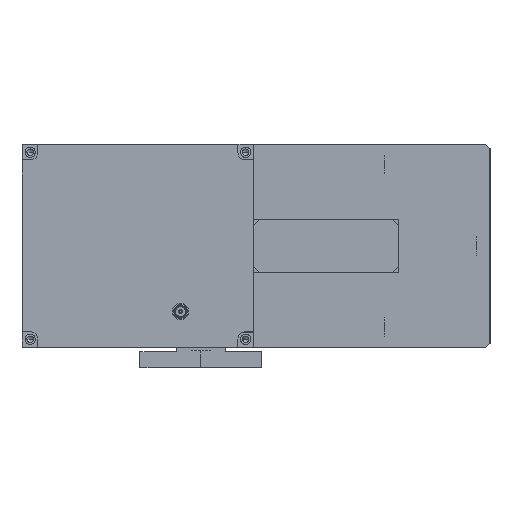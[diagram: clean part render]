
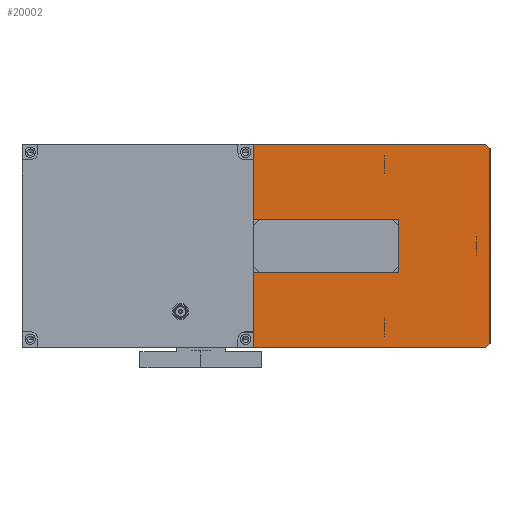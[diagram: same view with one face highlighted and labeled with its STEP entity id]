
A CAD part, left-side view. The second image highlights one B-rep face of the part: STEP entity #20002.
In plain terms, the highlighted planar face has unit normal (-1, 0, 0).
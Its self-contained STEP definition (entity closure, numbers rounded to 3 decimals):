
#368 = LINE ( 'NONE', #10370, #4258 ) ;
#388 = LINE ( 'NONE', #9389, #4557 ) ;
#816 = EDGE_CURVE ( 'NONE', #4428, #16407, #16830, .T. ) ;
#843 = VERTEX_POINT ( 'NONE', #12831 ) ;
#888 = ORIENTED_EDGE ( 'NONE', *, *, #2037, .T. ) ;
#1217 = LINE ( 'NONE', #4010, #17584 ) ;
#1444 = ORIENTED_EDGE ( 'NONE', *, *, #11602, .F. ) ;
#1617 = DIRECTION ( 'NONE',  ( 0., 0., 1. ) ) ;
#1998 = ORIENTED_EDGE ( 'NONE', *, *, #3875, .T. ) ;
#2037 = EDGE_CURVE ( 'NONE', #6688, #20751, #15978, .T. ) ;
#2354 = CARTESIAN_POINT ( 'NONE',  ( -55.786, 328.013, 241.232 ) ) ;
#3157 = LINE ( 'NONE', #13096, #12503 ) ;
#3318 = VECTOR ( 'NONE', #4772, 1000. ) ;
#3642 = VERTEX_POINT ( 'NONE', #19556 ) ;
#3875 = EDGE_CURVE ( 'NONE', #4428, #5678, #19713, .T. ) ;
#4010 = CARTESIAN_POINT ( 'NONE',  ( -55.786, 269.913, 272.782 ) ) ;
#4258 = VECTOR ( 'NONE', #8718, 1000. ) ;
#4428 = VERTEX_POINT ( 'NONE', #15458 ) ;
#4557 = VECTOR ( 'NONE', #11034, 1000. ) ;
#4772 = DIRECTION ( 'NONE',  ( 0., 0., 1. ) ) ;
#5013 = ORIENTED_EDGE ( 'NONE', *, *, #816, .F. ) ;
#5436 = VECTOR ( 'NONE', #17583, 1000. ) ;
#5678 = VERTEX_POINT ( 'NONE', #2354 ) ;
#5796 = EDGE_CURVE ( 'NONE', #6869, #3642, #388, .T. ) ;
#6502 = CARTESIAN_POINT ( 'NONE',  ( -55.786, 292.513, 241.232 ) ) ;
#6688 = VERTEX_POINT ( 'NONE', #15839 ) ;
#6869 = VERTEX_POINT ( 'NONE', #19988 ) ;
#6968 = EDGE_CURVE ( 'NONE', #6869, #843, #368, .T. ) ;
#7155 = VECTOR ( 'NONE', #15570, 1000. ) ;
#7870 = ORIENTED_EDGE ( 'NONE', *, *, #6968, .T. ) ;
#8244 = ORIENTED_EDGE ( 'NONE', *, *, #13562, .T. ) ;
#8341 = AXIS2_PLACEMENT_3D ( 'NONE', #10298, #11974, #16851 ) ;
#8346 = EDGE_CURVE ( 'NONE', #843, #6688, #3157, .T. ) ;
#8647 = PLANE ( 'NONE',  #8341 ) ;
#8718 = DIRECTION ( 'NONE',  ( 0., -0.707, 0.707 ) ) ;
#8720 = EDGE_LOOP ( 'NONE', ( #9466, #7870, #18280, #888, #8244, #1444, #20358, #5013, #1998, #21359 ) ) ;
#9139 = CARTESIAN_POINT ( 'NONE',  ( -55.786, 328.013, 254.332 ) ) ;
#9244 = CARTESIAN_POINT ( 'NONE',  ( -55.786, 328.013, 272.782 ) ) ;
#9389 = CARTESIAN_POINT ( 'NONE',  ( -55.786, 269.913, 222.782 ) ) ;
#9466 = ORIENTED_EDGE ( 'NONE', *, *, #5796, .F. ) ;
#10298 = CARTESIAN_POINT ( 'NONE',  ( -55.786, 269.913, 272.782 ) ) ;
#10370 = CARTESIAN_POINT ( 'NONE',  ( -55.786, 245.413, 248.282 ) ) ;
#11034 = DIRECTION ( 'NONE',  ( 0., 1., 0. ) ) ;
#11350 = EDGE_CURVE ( 'NONE', #3642, #5678, #16604, .T. ) ;
#11602 = EDGE_CURVE ( 'NONE', #21532, #14652, #15045, .T. ) ;
#11629 = VECTOR ( 'NONE', #17772, 1000. ) ;
#11926 = VECTOR ( 'NONE', #19197, 1000. ) ;
#11974 = DIRECTION ( 'NONE',  ( -1., 0., 0. ) ) ;
#12169 = VECTOR ( 'NONE', #17005, 1000. ) ;
#12227 = EDGE_CURVE ( 'NONE', #16407, #21532, #13988, .T. ) ;
#12503 = VECTOR ( 'NONE', #1617, 1000. ) ;
#12831 = CARTESIAN_POINT ( 'NONE',  ( -55.786, 269.913, 223.782 ) ) ;
#13096 = CARTESIAN_POINT ( 'NONE',  ( -55.786, 269.913, 272.782 ) ) ;
#13562 = EDGE_CURVE ( 'NONE', #20751, #14652, #1217, .T. ) ;
#13894 = CARTESIAN_POINT ( 'NONE',  ( -55.786, 328.013, 272.782 ) ) ;
#13988 = LINE ( 'NONE', #17617, #11629 ) ;
#14652 = VERTEX_POINT ( 'NONE', #15061 ) ;
#15045 = LINE ( 'NONE', #9244, #11926 ) ;
#15061 = CARTESIAN_POINT ( 'NONE',  ( -55.786, 328.013, 272.782 ) ) ;
#15458 = CARTESIAN_POINT ( 'NONE',  ( -55.786, 292.513, 241.232 ) ) ;
#15570 = DIRECTION ( 'NONE',  ( 0., 0.707, 0.707 ) ) ;
#15839 = CARTESIAN_POINT ( 'NONE',  ( -55.786, 269.913, 271.782 ) ) ;
#15978 = LINE ( 'NONE', #17250, #7155 ) ;
#16407 = VERTEX_POINT ( 'NONE', #17455 ) ;
#16604 = LINE ( 'NONE', #13894, #5436 ) ;
#16830 = LINE ( 'NONE', #6502, #3318 ) ;
#16851 = DIRECTION ( 'NONE',  ( 0., 0., 1. ) ) ;
#17005 = DIRECTION ( 'NONE',  ( 0., 1., 0. ) ) ;
#17190 = CARTESIAN_POINT ( 'NONE',  ( -55.786, 270.913, 272.782 ) ) ;
#17250 = CARTESIAN_POINT ( 'NONE',  ( -55.786, 270.413, 272.282 ) ) ;
#17455 = CARTESIAN_POINT ( 'NONE',  ( -55.786, 292.513, 254.332 ) ) ;
#17583 = DIRECTION ( 'NONE',  ( 0., 0., 1. ) ) ;
#17584 = VECTOR ( 'NONE', #18894, 1000. ) ;
#17617 = CARTESIAN_POINT ( 'NONE',  ( -55.786, 292.513, 254.332 ) ) ;
#17772 = DIRECTION ( 'NONE',  ( 0., 1., 0. ) ) ;
#18280 = ORIENTED_EDGE ( 'NONE', *, *, #8346, .T. ) ;
#18869 = FACE_OUTER_BOUND ( 'NONE', #8720, .T. ) ;
#18894 = DIRECTION ( 'NONE',  ( 0., 1., 0. ) ) ;
#19197 = DIRECTION ( 'NONE',  ( 0., 0., 1. ) ) ;
#19556 = CARTESIAN_POINT ( 'NONE',  ( -55.786, 328.013, 222.782 ) ) ;
#19713 = LINE ( 'NONE', #20140, #12169 ) ;
#19988 = CARTESIAN_POINT ( 'NONE',  ( -55.786, 270.913, 222.782 ) ) ;
#20002 = ADVANCED_FACE ( 'NONE', ( #18869 ), #8647, .T. ) ;
#20140 = CARTESIAN_POINT ( 'NONE',  ( -55.786, 292.513, 241.232 ) ) ;
#20358 = ORIENTED_EDGE ( 'NONE', *, *, #12227, .F. ) ;
#20751 = VERTEX_POINT ( 'NONE', #17190 ) ;
#21359 = ORIENTED_EDGE ( 'NONE', *, *, #11350, .F. ) ;
#21532 = VERTEX_POINT ( 'NONE', #9139 ) ;
